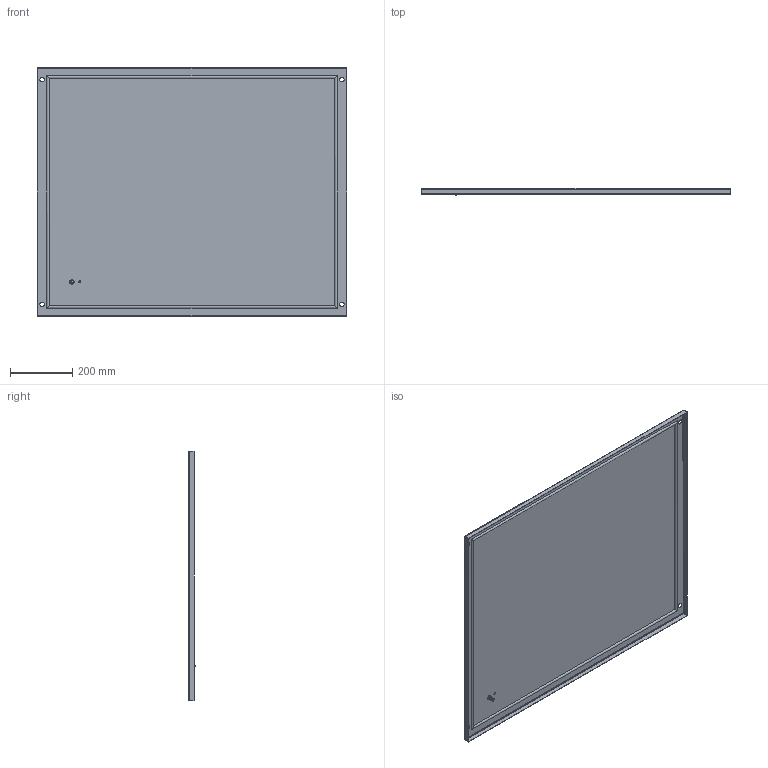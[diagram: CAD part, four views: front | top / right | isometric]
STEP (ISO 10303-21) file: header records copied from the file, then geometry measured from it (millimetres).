
FILE_DESCRIPTION (( 'STEP AP203' ), '1' );
FILE_NAME ('96690.step', '2013-03-12T06:20:06', ( '' ), ( '' ), 'SwSTEP 2.0', 'SolidWorks 2010', '' );
FILE_SCHEMA (( 'CONFIG_CONTROL_DESIGN' ));
Length unit declared in the file: inch
Products named in the file (7): 96690; 87931368_SLEEVE; 87939629; 87576774_87576774; 87576772_87576772; 60100041_60100041; 87931527_87931527
Assembly tree (6 placements, depth 4):
  96690
    87576774_87576774
      60100041_60100041
        87931368_SLEEVE
        87931527_87931527
      87939629
      87576772_87576772
Bounding box: 991.79 x 23.2 x 798.8 mm (x, y, z)
Volume: 1293666.4 mm3; surface area: 1777081.8 mm2
Topology: 4 solids, 4 shells, 129 faces, 292 edges, 176 vertices
Faces by surface type: plane 75, cylinder 40, bspline 8, cone 6
Entity records: 4639 total; most frequent: CARTESIAN_POINT 1048, DIRECTION 586, ORIENTED_EDGE 576, EDGE_CURVE 288, AXIS2_PLACEMENT_3D 198, VECTOR 190, LINE 190, VERTEX_POINT 176
